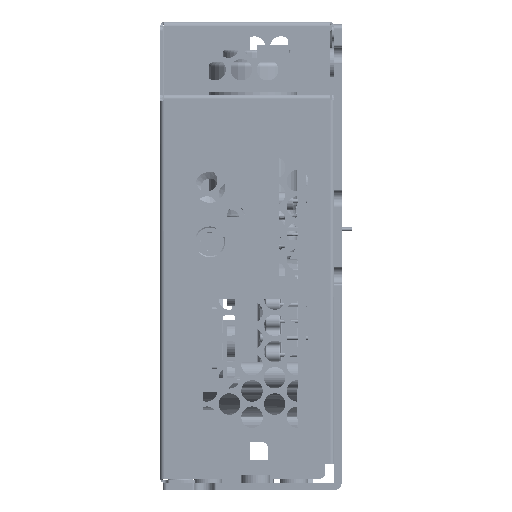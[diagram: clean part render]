
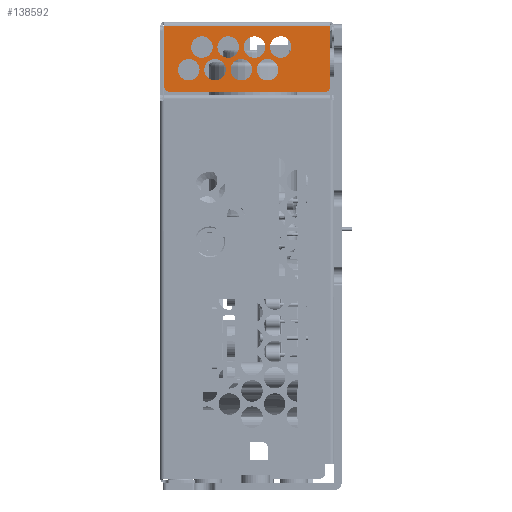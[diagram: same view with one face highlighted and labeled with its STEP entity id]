
A CAD part, left-side view. The second image highlights one B-rep face of the part: STEP entity #138592.
In plain terms, the highlighted planar face has unit normal (-1, 0, 0) as drawn and (0, 1, 0) by its records, which use the part's own axes.
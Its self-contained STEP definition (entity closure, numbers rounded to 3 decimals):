
#120133=DIRECTION('',(0.,0.,-1.));
#120134=VECTOR('',#120133,34.7);
#120135=CARTESIAN_POINT('',(95.,72.,35.6));
#120136=LINE('',#120135,#120134);
#120161=CARTESIAN_POINT('',(82.3,72.,1.9));
#120162=DIRECTION('',(0.,1.,0.));
#120163=DIRECTION('',(0.,0.,-1.));
#120164=AXIS2_PLACEMENT_3D('',#120161,#120162,#120163);
#120166=DIRECTION('',(-1.,0.,0.));
#120167=VECTOR('',#120166,12.4);
#120168=CARTESIAN_POINT('',(94.7,72.,0.9));
#120169=LINE('',#120168,#120167);
#120170=DIRECTION('',(-1.,0.,0.));
#120171=VECTOR('',#120170,0.3);
#120172=CARTESIAN_POINT('',(95.,72.,0.9));
#120173=LINE('',#120172,#120171);
#120174=DIRECTION('',(-1.,0.,0.));
#120175=VECTOR('',#120174,0.129);
#120176=CARTESIAN_POINT('',(95.,72.,35.6));
#120177=LINE('',#120176,#120175);
#120178=DIRECTION('',(1.,0.,0.));
#120179=VECTOR('',#120178,12.571);
#120180=CARTESIAN_POINT('',(82.3,72.,35.6));
#120181=LINE('',#120180,#120179);
#120182=CARTESIAN_POINT('',(82.3,72.,34.6));
#120183=DIRECTION('',(0.,1.,0.));
#120184=DIRECTION('',(-1.,0.,0.));
#120185=AXIS2_PLACEMENT_3D('',#120182,#120183,#120184);
#120187=DIRECTION('',(0.,0.,1.));
#120188=VECTOR('',#120187,32.7);
#120189=CARTESIAN_POINT('',(81.3,72.,1.9));
#120190=LINE('',#120189,#120188);
#120191=CARTESIAN_POINT('',(85.9,72.,6.));
#120192=DIRECTION('',(0.,1.,0.));
#120193=DIRECTION('',(-1.,0.,0.));
#120194=AXIS2_PLACEMENT_3D('',#120191,#120192,#120193);
#120196=CARTESIAN_POINT('',(85.9,72.,6.));
#120197=DIRECTION('',(0.,1.,0.));
#120198=DIRECTION('',(1.,0.,0.));
#120199=AXIS2_PLACEMENT_3D('',#120196,#120197,#120198);
#120201=CARTESIAN_POINT('',(85.9,72.,11.5));
#120202=DIRECTION('',(0.,1.,0.));
#120203=DIRECTION('',(-1.,0.,0.));
#120204=AXIS2_PLACEMENT_3D('',#120201,#120202,#120203);
#120206=CARTESIAN_POINT('',(85.9,72.,11.5));
#120207=DIRECTION('',(0.,1.,0.));
#120208=DIRECTION('',(1.,0.,0.));
#120209=AXIS2_PLACEMENT_3D('',#120206,#120207,#120208);
#120211=CARTESIAN_POINT('',(85.9,72.,17.));
#120212=DIRECTION('',(0.,1.,0.));
#120213=DIRECTION('',(-1.,0.,0.));
#120214=AXIS2_PLACEMENT_3D('',#120211,#120212,#120213);
#120216=CARTESIAN_POINT('',(85.9,72.,17.));
#120217=DIRECTION('',(0.,1.,0.));
#120218=DIRECTION('',(1.,0.,0.));
#120219=AXIS2_PLACEMENT_3D('',#120216,#120217,#120218);
#120221=CARTESIAN_POINT('',(85.9,72.,22.5));
#120222=DIRECTION('',(0.,1.,0.));
#120223=DIRECTION('',(-1.,0.,0.));
#120224=AXIS2_PLACEMENT_3D('',#120221,#120222,#120223);
#120226=CARTESIAN_POINT('',(85.9,72.,22.5));
#120227=DIRECTION('',(0.,1.,0.));
#120228=DIRECTION('',(1.,0.,0.));
#120229=AXIS2_PLACEMENT_3D('',#120226,#120227,#120228);
#120231=CARTESIAN_POINT('',(90.65,72.,8.751));
#120232=DIRECTION('',(0.,1.,0.));
#120233=DIRECTION('',(-1.,0.,0.));
#120234=AXIS2_PLACEMENT_3D('',#120231,#120232,#120233);
#120236=CARTESIAN_POINT('',(90.65,72.,8.751));
#120237=DIRECTION('',(0.,1.,0.));
#120238=DIRECTION('',(1.,0.,0.));
#120239=AXIS2_PLACEMENT_3D('',#120236,#120237,#120238);
#120241=CARTESIAN_POINT('',(90.65,72.,14.251));
#120242=DIRECTION('',(0.,1.,0.));
#120243=DIRECTION('',(-1.,0.,0.));
#120244=AXIS2_PLACEMENT_3D('',#120241,#120242,#120243);
#120246=CARTESIAN_POINT('',(90.65,72.,14.251));
#120247=DIRECTION('',(0.,1.,0.));
#120248=DIRECTION('',(1.,0.,0.));
#120249=AXIS2_PLACEMENT_3D('',#120246,#120247,#120248);
#120251=CARTESIAN_POINT('',(90.65,72.,19.751));
#120252=DIRECTION('',(0.,1.,0.));
#120253=DIRECTION('',(-1.,0.,0.));
#120254=AXIS2_PLACEMENT_3D('',#120251,#120252,#120253);
#120256=CARTESIAN_POINT('',(90.65,72.,19.751));
#120257=DIRECTION('',(0.,1.,0.));
#120258=DIRECTION('',(1.,0.,0.));
#120259=AXIS2_PLACEMENT_3D('',#120256,#120257,#120258);
#120261=CARTESIAN_POINT('',(90.65,72.,25.251));
#120262=DIRECTION('',(0.,1.,0.));
#120263=DIRECTION('',(-1.,0.,0.));
#120264=AXIS2_PLACEMENT_3D('',#120261,#120262,#120263);
#120266=CARTESIAN_POINT('',(90.65,72.,25.251));
#120267=DIRECTION('',(0.,1.,0.));
#120268=DIRECTION('',(1.,0.,0.));
#120269=AXIS2_PLACEMENT_3D('',#120266,#120267,#120268);
#123573=CARTESIAN_POINT('',(94.871,72.,35.6));
#123575=VERTEX_POINT('',#123573);
#123607=CARTESIAN_POINT('',(95.,72.,35.6));
#123608=CARTESIAN_POINT('',(95.,72.,0.9));
#123609=VERTEX_POINT('',#123607);
#123610=VERTEX_POINT('',#123608);
#123615=CARTESIAN_POINT('',(94.7,72.,0.9));
#123616=VERTEX_POINT('',#123615);
#123699=CARTESIAN_POINT('',(82.3,72.,0.9));
#123700=VERTEX_POINT('',#123699);
#123701=CARTESIAN_POINT('',(81.3,72.,1.9));
#123702=VERTEX_POINT('',#123701);
#123707=CARTESIAN_POINT('',(81.3,72.,34.6));
#123708=VERTEX_POINT('',#123707);
#123709=CARTESIAN_POINT('',(82.3,72.,35.6));
#123710=VERTEX_POINT('',#123709);
#123847=CARTESIAN_POINT('',(83.65,72.,6.));
#123848=CARTESIAN_POINT('',(88.15,72.,6.));
#123849=VERTEX_POINT('',#123847);
#123850=VERTEX_POINT('',#123848);
#123855=CARTESIAN_POINT('',(83.65,72.,11.5));
#123856=CARTESIAN_POINT('',(88.15,72.,11.5));
#123857=VERTEX_POINT('',#123855);
#123858=VERTEX_POINT('',#123856);
#123863=CARTESIAN_POINT('',(83.65,72.,17.));
#123864=CARTESIAN_POINT('',(88.15,72.,17.));
#123865=VERTEX_POINT('',#123863);
#123866=VERTEX_POINT('',#123864);
#123871=CARTESIAN_POINT('',(83.65,72.,22.5));
#123872=CARTESIAN_POINT('',(88.15,72.,22.5));
#123873=VERTEX_POINT('',#123871);
#123874=VERTEX_POINT('',#123872);
#123879=CARTESIAN_POINT('',(88.4,72.,8.751));
#123880=CARTESIAN_POINT('',(92.9,72.,8.751));
#123881=VERTEX_POINT('',#123879);
#123882=VERTEX_POINT('',#123880);
#123887=CARTESIAN_POINT('',(88.4,72.,14.251));
#123888=CARTESIAN_POINT('',(92.9,72.,14.251));
#123889=VERTEX_POINT('',#123887);
#123890=VERTEX_POINT('',#123888);
#123895=CARTESIAN_POINT('',(88.4,72.,19.751));
#123896=CARTESIAN_POINT('',(92.9,72.,19.751));
#123897=VERTEX_POINT('',#123895);
#123898=VERTEX_POINT('',#123896);
#123903=CARTESIAN_POINT('',(88.4,72.,25.251));
#123904=CARTESIAN_POINT('',(92.9,72.,25.251));
#123905=VERTEX_POINT('',#123903);
#123906=VERTEX_POINT('',#123904);
#138522=CARTESIAN_POINT('',(95.3,72.,27.355));
#138523=DIRECTION('',(0.,1.,0.));
#138524=DIRECTION('',(0.,0.,1.));
#138525=AXIS2_PLACEMENT_3D('',#138522,#138523,#138524);
#138526=PLANE('',#138525);
#138528=ORIENTED_EDGE('',*,*,#138527,.F.);
#138530=ORIENTED_EDGE('',*,*,#138529,.F.);
#138532=ORIENTED_EDGE('',*,*,#138531,.F.);
#138533=ORIENTED_EDGE('',*,*,#138509,.F.);
#138535=ORIENTED_EDGE('',*,*,#138534,.T.);
#138537=ORIENTED_EDGE('',*,*,#138536,.F.);
#138539=ORIENTED_EDGE('',*,*,#138538,.F.);
#138541=ORIENTED_EDGE('',*,*,#138540,.F.);
#138542=EDGE_LOOP('',(#138528,#138530,#138532,#138533,#138535,#138537,#138539,
#138541));
#138543=FACE_OUTER_BOUND('',#138542,.F.);
#138545=ORIENTED_EDGE('',*,*,#138544,.T.);
#138547=ORIENTED_EDGE('',*,*,#138546,.T.);
#138548=EDGE_LOOP('',(#138545,#138547));
#138549=FACE_BOUND('',#138548,.F.);
#138551=ORIENTED_EDGE('',*,*,#138550,.T.);
#138553=ORIENTED_EDGE('',*,*,#138552,.T.);
#138554=EDGE_LOOP('',(#138551,#138553));
#138555=FACE_BOUND('',#138554,.F.);
#138557=ORIENTED_EDGE('',*,*,#138556,.T.);
#138559=ORIENTED_EDGE('',*,*,#138558,.T.);
#138560=EDGE_LOOP('',(#138557,#138559));
#138561=FACE_BOUND('',#138560,.F.);
#138563=ORIENTED_EDGE('',*,*,#138562,.T.);
#138565=ORIENTED_EDGE('',*,*,#138564,.T.);
#138566=EDGE_LOOP('',(#138563,#138565));
#138567=FACE_BOUND('',#138566,.F.);
#138569=ORIENTED_EDGE('',*,*,#138568,.T.);
#138571=ORIENTED_EDGE('',*,*,#138570,.T.);
#138572=EDGE_LOOP('',(#138569,#138571));
#138573=FACE_BOUND('',#138572,.F.);
#138575=ORIENTED_EDGE('',*,*,#138574,.T.);
#138577=ORIENTED_EDGE('',*,*,#138576,.T.);
#138578=EDGE_LOOP('',(#138575,#138577));
#138579=FACE_BOUND('',#138578,.F.);
#138581=ORIENTED_EDGE('',*,*,#138580,.T.);
#138583=ORIENTED_EDGE('',*,*,#138582,.T.);
#138584=EDGE_LOOP('',(#138581,#138583));
#138585=FACE_BOUND('',#138584,.F.);
#138587=ORIENTED_EDGE('',*,*,#138586,.T.);
#138589=ORIENTED_EDGE('',*,*,#138588,.T.);
#138590=EDGE_LOOP('',(#138587,#138589));
#138591=FACE_BOUND('',#138590,.F.);
#120165=CIRCLE('',#120164,1.);
#120186=CIRCLE('',#120185,1.);
#120195=CIRCLE('',#120194,2.25);
#120200=CIRCLE('',#120199,2.25);
#120205=CIRCLE('',#120204,2.25);
#120210=CIRCLE('',#120209,2.25);
#120215=CIRCLE('',#120214,2.25);
#120220=CIRCLE('',#120219,2.25);
#120225=CIRCLE('',#120224,2.25);
#120230=CIRCLE('',#120229,2.25);
#120235=CIRCLE('',#120234,2.25);
#120240=CIRCLE('',#120239,2.25);
#120245=CIRCLE('',#120244,2.25);
#120250=CIRCLE('',#120249,2.25);
#120255=CIRCLE('',#120254,2.25);
#120260=CIRCLE('',#120259,2.25);
#120265=CIRCLE('',#120264,2.25);
#120270=CIRCLE('',#120269,2.25);
#138509=EDGE_CURVE('',#123609,#123610,#120136,.T.);
#138527=EDGE_CURVE('',#123700,#123702,#120165,.T.);
#138529=EDGE_CURVE('',#123616,#123700,#120169,.T.);
#138531=EDGE_CURVE('',#123610,#123616,#120173,.T.);
#138534=EDGE_CURVE('',#123609,#123575,#120177,.T.);
#138536=EDGE_CURVE('',#123710,#123575,#120181,.T.);
#138538=EDGE_CURVE('',#123708,#123710,#120186,.T.);
#138540=EDGE_CURVE('',#123702,#123708,#120190,.T.);
#138544=EDGE_CURVE('',#123849,#123850,#120195,.T.);
#138546=EDGE_CURVE('',#123850,#123849,#120200,.T.);
#138550=EDGE_CURVE('',#123857,#123858,#120205,.T.);
#138552=EDGE_CURVE('',#123858,#123857,#120210,.T.);
#138556=EDGE_CURVE('',#123865,#123866,#120215,.T.);
#138558=EDGE_CURVE('',#123866,#123865,#120220,.T.);
#138562=EDGE_CURVE('',#123873,#123874,#120225,.T.);
#138564=EDGE_CURVE('',#123874,#123873,#120230,.T.);
#138568=EDGE_CURVE('',#123881,#123882,#120235,.T.);
#138570=EDGE_CURVE('',#123882,#123881,#120240,.T.);
#138574=EDGE_CURVE('',#123889,#123890,#120245,.T.);
#138576=EDGE_CURVE('',#123890,#123889,#120250,.T.);
#138580=EDGE_CURVE('',#123897,#123898,#120255,.T.);
#138582=EDGE_CURVE('',#123898,#123897,#120260,.T.);
#138586=EDGE_CURVE('',#123905,#123906,#120265,.T.);
#138588=EDGE_CURVE('',#123906,#123905,#120270,.T.);
#138592=ADVANCED_FACE('',(#138543,#138549,#138555,#138561,#138567,#138573,
#138579,#138585,#138591),#138526,.T.);
